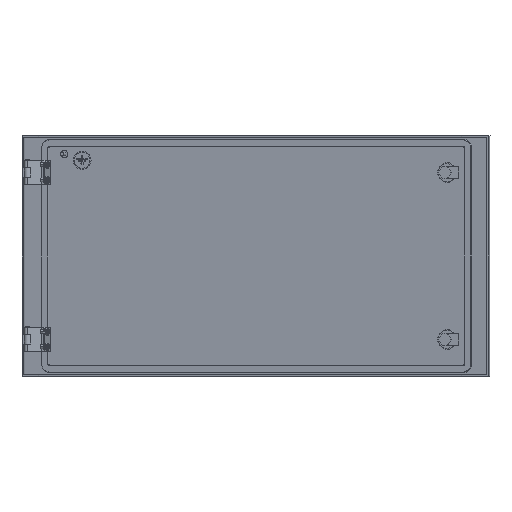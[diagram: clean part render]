
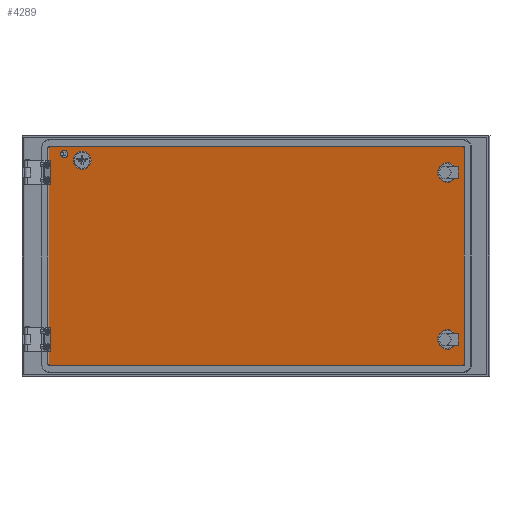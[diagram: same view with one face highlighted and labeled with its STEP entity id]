
A CAD part, left-side view. The second image highlights one B-rep face of the part: STEP entity #4289.
In plain terms, the highlighted planar face has unit normal (-0.966, 0.259, 0).
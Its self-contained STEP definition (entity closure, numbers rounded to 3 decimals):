
#100 = DIRECTION ( 'NONE',  ( -0.966, 0.259, 0. ) ) ;
#118 = DIRECTION ( 'NONE',  ( -0.966, 0.259, 0. ) ) ;
#126 = CARTESIAN_POINT ( 'NONE',  ( -7.425, -13.355, 183. ) ) ;
#151 = ORIENTED_EDGE ( 'NONE', *, *, #1705, .F. ) ;
#162 = CARTESIAN_POINT ( 'NONE',  ( -168.26, -614.201, -112.5 ) ) ;
#171 = EDGE_CURVE ( 'NONE', #19745, #20218, #897, .T. ) ;
#195 = EDGE_CURVE ( 'NONE', #14068, #11646, #261, .T. ) ;
#261 = CIRCLE ( 'NONE', #18030, 16. ) ;
#522 = CARTESIAN_POINT ( 'NONE',  ( 3.435, 27.217, -153. ) ) ;
#865 = LINE ( 'NONE', #16816, #11445 ) ;
#897 = LINE ( 'NONE', #7113, #16683 ) ;
#977 = CIRCLE ( 'NONE', #4996, 2. ) ;
#1191 = DIRECTION ( 'NONE',  ( 0.259, 0.966, 0. ) ) ;
#1689 = DIRECTION ( 'NONE',  ( 0., 0., -1. ) ) ;
#1705 = EDGE_CURVE ( 'NONE', #11646, #14068, #2973, .T. ) ;
#1802 = EDGE_CURVE ( 'NONE', #20575, #7619, #3623, .T. ) ;
#2305 = VERTEX_POINT ( 'NONE', #12831 ) ;
#2391 = VECTOR ( 'NONE', #12102, 1000. ) ;
#2618 = EDGE_LOOP ( 'NONE', ( #8007, #15779, #5620, #16041, #19403, #18600, #4446, #19280 ) ) ;
#2973 = CIRCLE ( 'NONE', #18390, 16. ) ;
#3299 = CARTESIAN_POINT ( 'NONE',  ( -179.896, -657.671, -153. ) ) ;
#3304 = EDGE_CURVE ( 'NONE', #4277, #18965, #4307, .T. ) ;
#3623 = CIRCLE ( 'NONE', #7339, 2. ) ;
#3807 = AXIS2_PLACEMENT_3D ( 'NONE', #12744, #11369, #4762 ) ;
#3854 = CARTESIAN_POINT ( 'NONE',  ( 2.918, 25.285, -155. ) ) ;
#3898 = DIRECTION ( 'NONE',  ( 0., 0., 1. ) ) ;
#4218 = EDGE_CURVE ( 'NONE', #4514, #19745, #977, .T. ) ;
#4247 = LINE ( 'NONE', #13385, #9861 ) ;
#4277 = VERTEX_POINT ( 'NONE', #7807 ) ;
#4289 = ADVANCED_FACE ( 'NONE', ( #15866, #14197, #20594, #8005, #20485 ), #6219, .F. ) ;
#4307 = CIRCLE ( 'NONE', #6996, 2. ) ;
#4334 = DIRECTION ( 'NONE',  ( 0.259, 0.966, 0. ) ) ;
#4375 = DIRECTION ( 'NONE',  ( 0.259, 0.966, 0. ) ) ;
#4383 = EDGE_CURVE ( 'NONE', #19303, #2305, #6367, .T. ) ;
#4446 = ORIENTED_EDGE ( 'NONE', *, *, #12297, .F. ) ;
#4514 = VERTEX_POINT ( 'NONE', #522 ) ;
#4556 = VERTEX_POINT ( 'NONE', #8718 ) ;
#4683 = EDGE_CURVE ( 'NONE', #8437, #13891, #4697, .T. ) ;
#4697 = CIRCLE ( 'NONE', #7382, 15. ) ;
#4762 = DIRECTION ( 'NONE',  ( 0.259, 0.966, 0. ) ) ;
#4936 = CARTESIAN_POINT ( 'NONE',  ( 2.918, 25.285, -153. ) ) ;
#4996 = AXIS2_PLACEMENT_3D ( 'NONE', #4936, #118, #7694 ) ;
#5046 = DIRECTION ( 'NONE',  ( 0.259, 0.966, 0. ) ) ;
#5139 = DIRECTION ( 'NONE',  ( 0., 0., -1. ) ) ;
#5151 = AXIS2_PLACEMENT_3D ( 'NONE', #19821, #17837, #5139 ) ;
#5296 = CIRCLE ( 'NONE', #14025, 2.65 ) ;
#5352 = EDGE_CURVE ( 'NONE', #4514, #20575, #865, .T. ) ;
#5533 = CARTESIAN_POINT ( 'NONE',  ( -179.896, -657.671, 203. ) ) ;
#5620 = ORIENTED_EDGE ( 'NONE', *, *, #171, .T. ) ;
#5817 = EDGE_CURVE ( 'NONE', #18965, #20040, #13557, .T. ) ;
#6051 = DIRECTION ( 'NONE',  ( -0.966, 0.259, 0. ) ) ;
#6113 = CARTESIAN_POINT ( 'NONE',  ( -131.283, -476.065, 1041.5 ) ) ;
#6219 = PLANE ( 'NONE',  #15413 ) ;
#6367 = CIRCLE ( 'NONE', #9379, 2.65 ) ;
#6499 = DIRECTION ( 'NONE',  ( -0.966, 0.259, 0. ) ) ;
#6903 = CARTESIAN_POINT ( 'NONE',  ( -172.397, -629.657, -112.5 ) ) ;
#6996 = AXIS2_PLACEMENT_3D ( 'NONE', #7377, #9044, #3898 ) ;
#7102 = ORIENTED_EDGE ( 'NONE', *, *, #7336, .F. ) ;
#7113 = CARTESIAN_POINT ( 'NONE',  ( 2.918, 25.285, -155. ) ) ;
#7293 = CARTESIAN_POINT ( 'NONE',  ( -179.378, -655.739, -155. ) ) ;
#7336 = EDGE_CURVE ( 'NONE', #20000, #4556, #14550, .T. ) ;
#7339 = AXIS2_PLACEMENT_3D ( 'NONE', #20293, #13900, #4334 ) ;
#7377 = CARTESIAN_POINT ( 'NONE',  ( -179.378, -655.739, 203. ) ) ;
#7382 = AXIS2_PLACEMENT_3D ( 'NONE', #18898, #100, #12618 ) ;
#7517 = CIRCLE ( 'NONE', #3807, 15. ) ;
#7619 = VERTEX_POINT ( 'NONE', #10169 ) ;
#7694 = DIRECTION ( 'NONE',  ( 0.259, 0.966, 0. ) ) ;
#7807 = CARTESIAN_POINT ( 'NONE',  ( -179.378, -655.739, 205. ) ) ;
#8005 = FACE_BOUND ( 'NONE', #20487, .T. ) ;
#8007 = ORIENTED_EDGE ( 'NONE', *, *, #5352, .F. ) ;
#8163 = ORIENTED_EDGE ( 'NONE', *, *, #18936, .F. ) ;
#8437 = VERTEX_POINT ( 'NONE', #12067 ) ;
#8672 = EDGE_LOOP ( 'NONE', ( #20750, #20722 ) ) ;
#8718 = CARTESIAN_POINT ( 'NONE',  ( -176.534, -645.113, -112.5 ) ) ;
#8794 = DIRECTION ( 'NONE',  ( -0.966, 0.259, 0. ) ) ;
#9044 = DIRECTION ( 'NONE',  ( 0.966, -0.259, 0. ) ) ;
#9379 = AXIS2_PLACEMENT_3D ( 'NONE', #18264, #15006, #5046 ) ;
#9861 = VECTOR ( 'NONE', #16843, 1000. ) ;
#10169 = CARTESIAN_POINT ( 'NONE',  ( 2.918, 25.285, 205. ) ) ;
#10353 = DIRECTION ( 'NONE',  ( -0.966, 0.259, 0. ) ) ;
#11049 = DIRECTION ( 'NONE',  ( 0.966, -0.259, 0. ) ) ;
#11064 = CARTESIAN_POINT ( 'NONE',  ( -172.397, -629.657, 162.5 ) ) ;
#11325 = CARTESIAN_POINT ( 'NONE',  ( -172.397, -629.657, -112.5 ) ) ;
#11369 = DIRECTION ( 'NONE',  ( -0.966, 0.259, 0. ) ) ;
#11445 = VECTOR ( 'NONE', #20380, 1000. ) ;
#11646 = VERTEX_POINT ( 'NONE', #14887 ) ;
#11952 = DIRECTION ( 'NONE',  ( 0.259, 0.966, 0. ) ) ;
#12050 = DIRECTION ( 'NONE',  ( -0.259, -0.966, 0. ) ) ;
#12067 = CARTESIAN_POINT ( 'NONE',  ( -15.182, -42.335, 183. ) ) ;
#12102 = DIRECTION ( 'NONE',  ( 0., 0., -1. ) ) ;
#12297 = EDGE_CURVE ( 'NONE', #7619, #4277, #4247, .T. ) ;
#12531 = CIRCLE ( 'NONE', #14195, 16. ) ;
#12618 = DIRECTION ( 'NONE',  ( 0.259, 0.966, 0. ) ) ;
#12744 = CARTESIAN_POINT ( 'NONE',  ( -11.304, -27.845, 183. ) ) ;
#12831 = CARTESIAN_POINT ( 'NONE',  ( -2.883, 3.612, 193.666 ) ) ;
#13148 = EDGE_LOOP ( 'NONE', ( #7102, #8163 ) ) ;
#13385 = CARTESIAN_POINT ( 'NONE',  ( 2.918, 25.285, 205. ) ) ;
#13557 = LINE ( 'NONE', #18473, #2391 ) ;
#13865 = CIRCLE ( 'NONE', #5151, 2. ) ;
#13891 = VERTEX_POINT ( 'NONE', #126 ) ;
#13900 = DIRECTION ( 'NONE',  ( 0.966, -0.259, 0. ) ) ;
#13964 = EDGE_CURVE ( 'NONE', #20218, #20040, #13865, .T. ) ;
#14025 = AXIS2_PLACEMENT_3D ( 'NONE', #18861, #6051, #4375 ) ;
#14068 = VERTEX_POINT ( 'NONE', #20030 ) ;
#14195 = AXIS2_PLACEMENT_3D ( 'NONE', #6903, #8794, #11952 ) ;
#14197 = FACE_BOUND ( 'NONE', #15561, .T. ) ;
#14490 = EDGE_CURVE ( 'NONE', #13891, #8437, #7517, .T. ) ;
#14550 = CIRCLE ( 'NONE', #19572, 16. ) ;
#14774 = DIRECTION ( 'NONE',  ( 0.259, 0.966, 0. ) ) ;
#14887 = CARTESIAN_POINT ( 'NONE',  ( -176.534, -645.113, 162.5 ) ) ;
#15006 = DIRECTION ( 'NONE',  ( -0.966, 0.259, 0. ) ) ;
#15182 = CARTESIAN_POINT ( 'NONE',  ( -172.397, -629.657, 162.5 ) ) ;
#15413 = AXIS2_PLACEMENT_3D ( 'NONE', #6113, #11049, #1689 ) ;
#15464 = DIRECTION ( 'NONE',  ( -0.966, 0.259, 0. ) ) ;
#15561 = EDGE_LOOP ( 'NONE', ( #16644, #151 ) ) ;
#15779 = ORIENTED_EDGE ( 'NONE', *, *, #4218, .T. ) ;
#15866 = FACE_OUTER_BOUND ( 'NONE', #2618, .T. ) ;
#16041 = ORIENTED_EDGE ( 'NONE', *, *, #13964, .T. ) ;
#16636 = ORIENTED_EDGE ( 'NONE', *, *, #4383, .F. ) ;
#16644 = ORIENTED_EDGE ( 'NONE', *, *, #195, .F. ) ;
#16683 = VECTOR ( 'NONE', #12050, 1000. ) ;
#16816 = CARTESIAN_POINT ( 'NONE',  ( 3.435, 27.217, 25. ) ) ;
#16843 = DIRECTION ( 'NONE',  ( -0.259, -0.966, 0. ) ) ;
#17253 = CARTESIAN_POINT ( 'NONE',  ( -4.21, -1.343, 192.334 ) ) ;
#17837 = DIRECTION ( 'NONE',  ( -0.966, 0.259, 0. ) ) ;
#18030 = AXIS2_PLACEMENT_3D ( 'NONE', #15182, #10353, #18638 ) ;
#18264 = CARTESIAN_POINT ( 'NONE',  ( -3.546, 1.135, 193. ) ) ;
#18390 = AXIS2_PLACEMENT_3D ( 'NONE', #11064, #15464, #1191 ) ;
#18473 = CARTESIAN_POINT ( 'NONE',  ( -179.896, -657.671, 203. ) ) ;
#18600 = ORIENTED_EDGE ( 'NONE', *, *, #3304, .F. ) ;
#18638 = DIRECTION ( 'NONE',  ( 0.259, 0.966, 0. ) ) ;
#18861 = CARTESIAN_POINT ( 'NONE',  ( -3.546, 1.135, 193. ) ) ;
#18898 = CARTESIAN_POINT ( 'NONE',  ( -11.304, -27.845, 183. ) ) ;
#18936 = EDGE_CURVE ( 'NONE', #4556, #20000, #12531, .T. ) ;
#18965 = VERTEX_POINT ( 'NONE', #5533 ) ;
#19280 = ORIENTED_EDGE ( 'NONE', *, *, #1802, .F. ) ;
#19303 = VERTEX_POINT ( 'NONE', #17253 ) ;
#19403 = ORIENTED_EDGE ( 'NONE', *, *, #5817, .F. ) ;
#19572 = AXIS2_PLACEMENT_3D ( 'NONE', #11325, #6499, #14774 ) ;
#19745 = VERTEX_POINT ( 'NONE', #3854 ) ;
#19748 = CARTESIAN_POINT ( 'NONE',  ( 3.435, 27.217, 203. ) ) ;
#19821 = CARTESIAN_POINT ( 'NONE',  ( -179.378, -655.739, -153. ) ) ;
#19866 = EDGE_CURVE ( 'NONE', #2305, #19303, #5296, .T. ) ;
#20000 = VERTEX_POINT ( 'NONE', #162 ) ;
#20030 = CARTESIAN_POINT ( 'NONE',  ( -168.26, -614.201, 162.5 ) ) ;
#20040 = VERTEX_POINT ( 'NONE', #3299 ) ;
#20218 = VERTEX_POINT ( 'NONE', #7293 ) ;
#20293 = CARTESIAN_POINT ( 'NONE',  ( 2.918, 25.285, 203. ) ) ;
#20380 = DIRECTION ( 'NONE',  ( 0., 0., 1. ) ) ;
#20484 = ORIENTED_EDGE ( 'NONE', *, *, #19866, .F. ) ;
#20485 = FACE_BOUND ( 'NONE', #8672, .T. ) ;
#20487 = EDGE_LOOP ( 'NONE', ( #16636, #20484 ) ) ;
#20575 = VERTEX_POINT ( 'NONE', #19748 ) ;
#20594 = FACE_BOUND ( 'NONE', #13148, .T. ) ;
#20722 = ORIENTED_EDGE ( 'NONE', *, *, #4683, .F. ) ;
#20750 = ORIENTED_EDGE ( 'NONE', *, *, #14490, .F. ) ;
